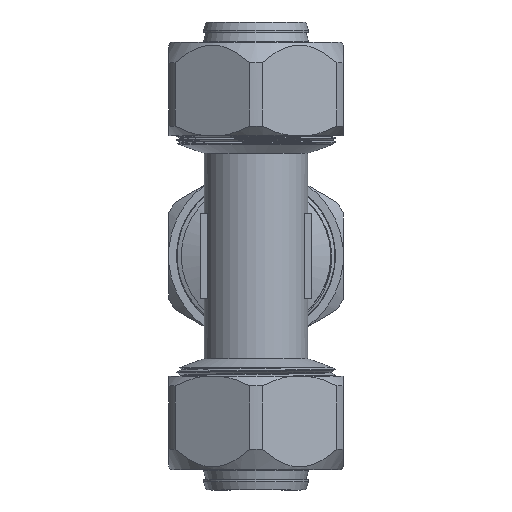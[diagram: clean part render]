
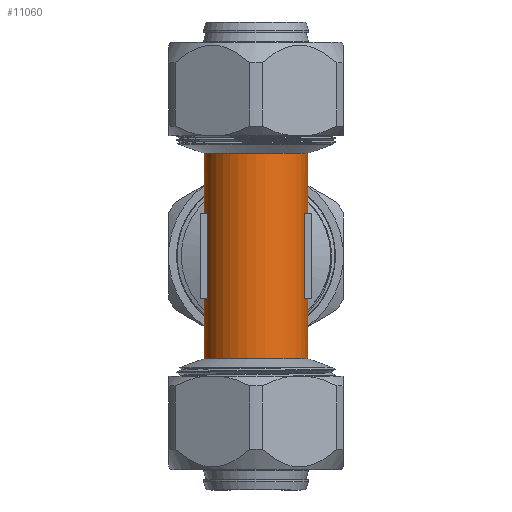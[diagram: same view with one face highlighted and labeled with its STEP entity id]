
A CAD part, front view. The second image highlights one B-rep face of the part: STEP entity #11060.
In plain terms, the highlighted cylindrical face has radius 12.75 mm (diameter 25.5 mm), a full revolution.
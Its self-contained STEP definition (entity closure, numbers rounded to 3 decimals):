
#117=ELLIPSE('',#11799,18.031,12.75);
#118=ELLIPSE('',#11800,18.031,12.75);
#119=ELLIPSE('',#11801,18.031,12.75);
#120=ELLIPSE('',#11802,18.031,12.75);
#1138=CYLINDRICAL_SURFACE('',#11797,12.75);
#1558=FACE_OUTER_BOUND('',#2191,.T.);
#2191=EDGE_LOOP('',(#7763,#7764,#7765,#7766,#7767,#7768,#7769,#7770,#7771,
#7772,#7773,#7774,#7775,#7776,#7777,#7778,#7779,#7780,#7781,#7782));
#2917=LINE('',#14845,#3626);
#2925=LINE('',#14866,#3634);
#2926=LINE('',#14869,#3635);
#2928=LINE('',#14873,#3637);
#2929=LINE('',#14877,#3638);
#2932=LINE('',#14884,#3641);
#2936=LINE('',#14896,#3645);
#2937=LINE('',#14900,#3646);
#3626=VECTOR('',#12624,10.);
#3634=VECTOR('',#12642,10.);
#3635=VECTOR('',#12645,10.);
#3637=VECTOR('',#12649,10.);
#3638=VECTOR('',#12652,10.);
#3641=VECTOR('',#12659,10.);
#3645=VECTOR('',#12673,12.75);
#3646=VECTOR('',#12678,12.75);
#4245=CIRCLE('',#11741,12.75);
#4250=CIRCLE('',#11782,12.75);
#4251=CIRCLE('',#11785,12.75);
#4252=CIRCLE('',#11787,12.75);
#4255=CIRCLE('',#11795,12.75);
#4256=CIRCLE('',#11798,12.75);
#4536=VERTEX_POINT('',#14494);
#4613=VERTEX_POINT('',#14835);
#4614=VERTEX_POINT('',#14836);
#4617=VERTEX_POINT('',#14844);
#4619=VERTEX_POINT('',#14850);
#4621=VERTEX_POINT('',#14856);
#4622=VERTEX_POINT('',#14857);
#4625=VERTEX_POINT('',#14865);
#4626=VERTEX_POINT('',#14867);
#4627=VERTEX_POINT('',#14872);
#4628=VERTEX_POINT('',#14874);
#4629=VERTEX_POINT('',#14876);
#4631=VERTEX_POINT('',#14883);
#4633=VERTEX_POINT('',#14893);
#4634=VERTEX_POINT('',#14895);
#4635=VERTEX_POINT('',#14898);
#5725=EDGE_CURVE('',#4536,#4536,#4245,.T.);
#5841=EDGE_CURVE('',#4613,#4614,#4250,.T.);
#5845=EDGE_CURVE('',#4614,#4617,#2917,.T.);
#5848=EDGE_CURVE('',#4617,#4619,#4251,.T.);
#5851=EDGE_CURVE('',#4621,#4622,#4252,.T.);
#5855=EDGE_CURVE('',#4625,#4613,#2925,.T.);
#5857=EDGE_CURVE('',#4619,#4626,#2926,.T.);
#5859=EDGE_CURVE('',#4627,#4621,#2928,.T.);
#5861=EDGE_CURVE('',#4629,#4628,#2929,.T.);
#5864=EDGE_CURVE('',#4622,#4631,#2932,.T.);
#5867=EDGE_CURVE('',#4631,#4629,#4255,.T.);
#5869=EDGE_CURVE('',#4633,#4633,#4256,.T.);
#5870=EDGE_CURVE('',#4633,#4634,#2936,.T.);
#5871=EDGE_CURVE('',#4634,#4625,#117,.T.);
#5872=EDGE_CURVE('',#4626,#4635,#118,.T.);
#5873=EDGE_CURVE('',#4635,#4536,#2937,.T.);
#5874=EDGE_CURVE('',#4635,#4627,#119,.T.);
#5875=EDGE_CURVE('',#4628,#4634,#120,.T.);
#7763=ORIENTED_EDGE('',*,*,#5869,.F.);
#7764=ORIENTED_EDGE('',*,*,#5870,.T.);
#7765=ORIENTED_EDGE('',*,*,#5871,.T.);
#7766=ORIENTED_EDGE('',*,*,#5855,.T.);
#7767=ORIENTED_EDGE('',*,*,#5841,.T.);
#7768=ORIENTED_EDGE('',*,*,#5845,.T.);
#7769=ORIENTED_EDGE('',*,*,#5848,.T.);
#7770=ORIENTED_EDGE('',*,*,#5857,.T.);
#7771=ORIENTED_EDGE('',*,*,#5872,.T.);
#7772=ORIENTED_EDGE('',*,*,#5873,.T.);
#7773=ORIENTED_EDGE('',*,*,#5725,.T.);
#7774=ORIENTED_EDGE('',*,*,#5873,.F.);
#7775=ORIENTED_EDGE('',*,*,#5874,.T.);
#7776=ORIENTED_EDGE('',*,*,#5859,.T.);
#7777=ORIENTED_EDGE('',*,*,#5851,.T.);
#7778=ORIENTED_EDGE('',*,*,#5864,.T.);
#7779=ORIENTED_EDGE('',*,*,#5867,.T.);
#7780=ORIENTED_EDGE('',*,*,#5861,.T.);
#7781=ORIENTED_EDGE('',*,*,#5875,.T.);
#7782=ORIENTED_EDGE('',*,*,#5870,.F.);
#11060=ADVANCED_FACE('',(#1558),#1138,.T.);
#11741=AXIS2_PLACEMENT_3D('',#14495,#12440,#12441);
#11782=AXIS2_PLACEMENT_3D('',#14837,#12617,#12618);
#11785=AXIS2_PLACEMENT_3D('',#14851,#12629,#12630);
#11787=AXIS2_PLACEMENT_3D('',#14858,#12635,#12636);
#11795=AXIS2_PLACEMENT_3D('',#14889,#12664,#12665);
#11797=AXIS2_PLACEMENT_3D('',#14892,#12669,#12670);
#11798=AXIS2_PLACEMENT_3D('',#14894,#12671,#12672);
#11799=AXIS2_PLACEMENT_3D('',#14897,#12674,#12675);
#11800=AXIS2_PLACEMENT_3D('',#14899,#12676,#12677);
#11801=AXIS2_PLACEMENT_3D('',#14901,#12679,#12680);
#11802=AXIS2_PLACEMENT_3D('',#14902,#12681,#12682);
#12440=DIRECTION('center_axis',(0.,0.,1.));
#12441=DIRECTION('ref_axis',(0.,-1.,0.));
#12617=DIRECTION('center_axis',(0.,0.,1.));
#12618=DIRECTION('ref_axis',(0.,-1.,0.));
#12624=DIRECTION('',(0.,0.,-1.));
#12629=DIRECTION('center_axis',(0.,0.,-1.));
#12630=DIRECTION('ref_axis',(0.,-1.,0.));
#12635=DIRECTION('center_axis',(0.,0.,-1.));
#12636=DIRECTION('ref_axis',(0.,-1.,0.));
#12642=DIRECTION('',(0.,0.,1.));
#12645=DIRECTION('',(0.,0.,1.));
#12649=DIRECTION('',(0.,0.,-1.));
#12652=DIRECTION('',(0.,0.,-1.));
#12659=DIRECTION('',(0.,0.,1.));
#12664=DIRECTION('center_axis',(0.,0.,1.));
#12665=DIRECTION('ref_axis',(0.,-1.,0.));
#12669=DIRECTION('center_axis',(0.,0.,1.));
#12670=DIRECTION('ref_axis',(0.,-1.,0.));
#12671=DIRECTION('center_axis',(0.,0.,1.));
#12672=DIRECTION('ref_axis',(1.,0.,0.));
#12673=DIRECTION('',(0.,0.,-1.));
#12674=DIRECTION('center_axis',(0.,-0.707,0.707));
#12675=DIRECTION('ref_axis',(0.,-0.707,-0.707));
#12676=DIRECTION('center_axis',(0.,-0.707,-0.707));
#12677=DIRECTION('ref_axis',(0.,0.707,-0.707));
#12678=DIRECTION('',(0.,0.,-1.));
#12679=DIRECTION('center_axis',(0.,-0.707,-0.707));
#12680=DIRECTION('ref_axis',(0.,0.707,-0.707));
#12681=DIRECTION('center_axis',(0.,-0.707,0.707));
#12682=DIRECTION('ref_axis',(0.,-0.707,-0.707));
#14494=CARTESIAN_POINT('',(0.,12.75,-25.246));
#14495=CARTESIAN_POINT('Origin',(0.,0.,-25.246));
#14835=CARTESIAN_POINT('',(-10.497,7.236,10.5));
#14836=CARTESIAN_POINT('',(-11.827,-4.764,10.5));
#14837=CARTESIAN_POINT('Origin',(0.,0.,10.5));
#14844=CARTESIAN_POINT('',(-11.827,-4.764,-10.5));
#14845=CARTESIAN_POINT('',(-11.827,-4.764,-12.625));
#14850=CARTESIAN_POINT('',(-10.497,7.236,-10.5));
#14851=CARTESIAN_POINT('Origin',(0.,0.,-10.5));
#14856=CARTESIAN_POINT('',(10.497,7.236,-10.5));
#14857=CARTESIAN_POINT('',(11.827,-4.764,-10.5));
#14858=CARTESIAN_POINT('Origin',(0.,0.,-10.5));
#14865=CARTESIAN_POINT('',(-10.497,7.236,7.236));
#14866=CARTESIAN_POINT('',(-10.497,7.236,-12.625));
#14867=CARTESIAN_POINT('',(-10.497,7.236,-7.236));
#14869=CARTESIAN_POINT('',(-10.497,7.236,-12.625));
#14872=CARTESIAN_POINT('',(10.497,7.236,-7.236));
#14873=CARTESIAN_POINT('',(10.497,7.236,-12.625));
#14874=CARTESIAN_POINT('',(10.497,7.236,7.236));
#14876=CARTESIAN_POINT('',(10.497,7.236,10.5));
#14877=CARTESIAN_POINT('',(10.497,7.236,-12.625));
#14883=CARTESIAN_POINT('',(11.827,-4.764,10.5));
#14884=CARTESIAN_POINT('',(11.827,-4.764,-12.625));
#14889=CARTESIAN_POINT('Origin',(0.,0.,10.5));
#14892=CARTESIAN_POINT('Origin',(0.,0.,-12.625));
#14893=CARTESIAN_POINT('',(0.,12.75,25.25));
#14894=CARTESIAN_POINT('Origin',(0.,0.,25.25));
#14895=CARTESIAN_POINT('',(0.,12.75,12.75));
#14896=CARTESIAN_POINT('',(0.,12.75,-12.625));
#14897=CARTESIAN_POINT('Origin',(0.,0.,0.));
#14898=CARTESIAN_POINT('',(0.,12.75,-12.75));
#14899=CARTESIAN_POINT('Origin',(0.,0.,0.));
#14900=CARTESIAN_POINT('',(0.,12.75,-12.625));
#14901=CARTESIAN_POINT('Origin',(0.,0.,0.));
#14902=CARTESIAN_POINT('Origin',(0.,0.,0.));
